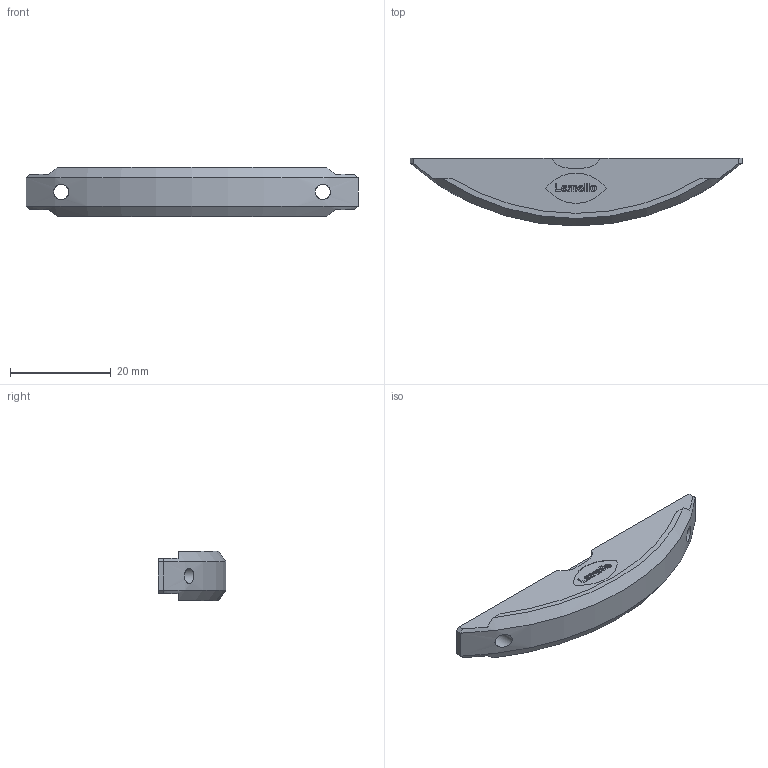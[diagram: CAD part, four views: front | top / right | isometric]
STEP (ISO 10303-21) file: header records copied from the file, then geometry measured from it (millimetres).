
FILE_DESCRIPTION(/* description */ (''),/* implementation_level */ '2;1');
FILE_NAME(/* name */ 'C:\Users\matthiask.LAMELLONET\Desktop\Öfftentliche Daten\Clamex_P-14_Verbinderhaelfte_ohne_Hebel.stp',/* time_stamp */ '2022-06-29T13:34:20+02:00',/* author */ ('matthiask'),/* organization */ (''),/* preprocessor_version */ 'ST-DEVELOPER v18',/* originating_system */ 'Autodesk Inventor 2020',/* authorisation */ '');
FILE_SCHEMA (('AUTOMOTIVE_DESIGN { 1 0 10303 214 3 1 1 }'));
Length unit declared in the file: millimetre
Products named in the file (1): P-14 Oberteil
Bounding box: 66 x 13.5 x 9.8 mm (x, y, z)
Volume: 3489.7 mm3; surface area: 3282.4 mm2
Topology: 1 solids, 1 shells, 144 faces, 378 edges, 252 vertices
Faces by surface type: plane 79, bspline 45, cylinder 18, cone 2
Full cylindrical faces by diameter (mm): 3 x2, 6 x2
Entity records: 4735 total; most frequent: CARTESIAN_POINT 1402, ORIENTED_EDGE 756, DIRECTION 530, EDGE_CURVE 378, VERTEX_POINT 252, LINE 234, VECTOR 234, EDGE_LOOP 164
